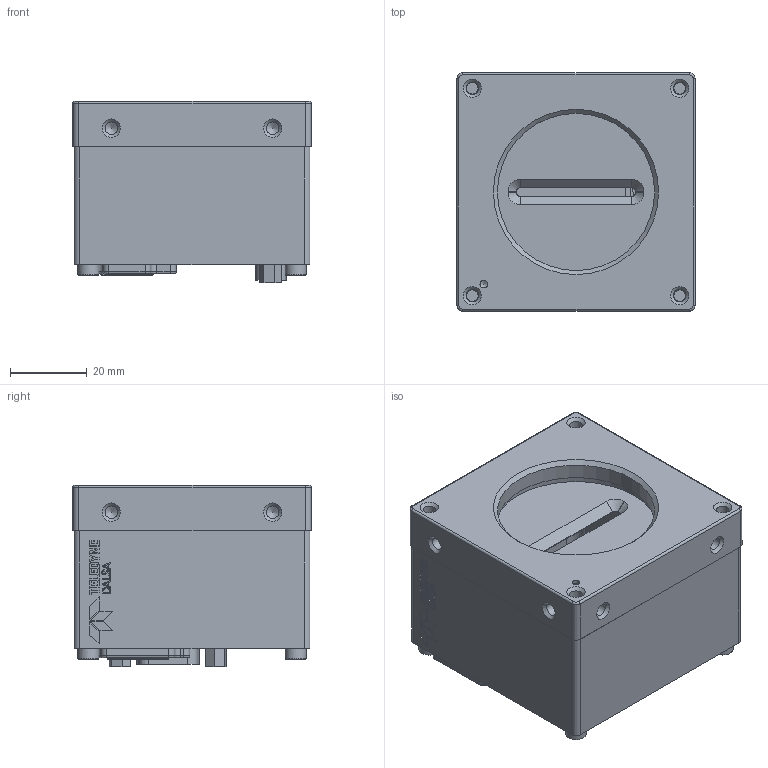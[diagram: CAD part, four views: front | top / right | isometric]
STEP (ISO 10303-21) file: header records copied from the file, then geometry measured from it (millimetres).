
FILE_DESCRIPTION(/* description */ (''),/* implementation_level */ '2;1');
FILE_NAME(/* name */ '03-129-20132-02 LINEA 2K 4K GIGE CUSTOMER DRAWING.stp',/* time_stamp */ '2014-12-15T16:56:47-05:00',/* author */ ('kliem'),/* organization */ (''),/* preprocessor_version */ 'ST-DEVELOPER v15.2',/* originating_system */ 'Autodesk Inventor 2014',/* authorisation */ '');
FILE_SCHEMA (('CONFIG_CONTROL_DESIGN'));
Products named in the file (1): 03-129-20132-02 LINEA 4K GIGE USER 3D MODEL
Bounding box: 62 x 62 x 47.22 mm (x, y, z)
Volume: 55164.2 mm3; surface area: 36973.8 mm2
Topology: 2 solids, 25 shells, 3542 faces, 9432 edges, 6275 vertices
Faces by surface type: plane 2291, bspline 868, cylinder 296, cone 67, torus 20
Full cylindrical faces by diameter (mm): 0.762 x5, 0.864 x10, 1.567 x4, 1.829 x15, 2 x1, 2.013 x4, 2.459 x2, 2.5 x4, 2.82 x1, 2.92 x1, 3 x14, 3.242 x12, 3.454 x2, 3.5 x4, 4.2 x4, 4.4 x3, 5.5 x4, 6.4 x1, 40.917 x1, 43 x1
Entity records: 122952 total; most frequent: CARTESIAN_POINT 37790, ORIENTED_EDGE 18388, DIRECTION 13447, EDGE_CURVE 9190, LINE 6815, VECTOR 6815, VERTEX_POINT 6169, EDGE_LOOP 4073
